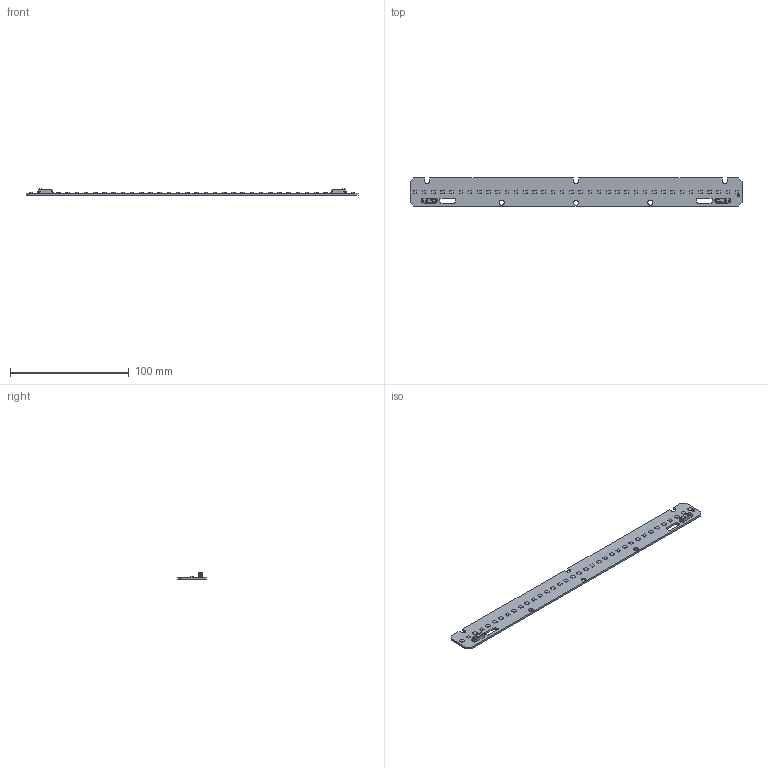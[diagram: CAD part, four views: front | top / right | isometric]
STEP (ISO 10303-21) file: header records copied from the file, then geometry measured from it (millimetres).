
FILE_DESCRIPTION((''),'2;1');
FILE_NAME('16208804_LLE-G5-24X280-2000LM','2020-03-03T09:05:52',('bernhard.fink'),(''),'CREO PARAMETRIC BY PTC INC, 2019164','CREO PARAMETRIC BY PTC INC, 2019164','');
FILE_SCHEMA(('CONFIG_CONTROL_DESIGN'));
Products named in the file (1): 16208804_LLE-G5-24X280-2000LM
Bounding box: 279 x 23.6 x 5.1 mm (x, y, z)
Volume: 10656.5 mm3; surface area: 14548.2 mm2
Topology: 1 solids, 7 shells, 851 faces, 2318 edges, 1512 vertices
Faces by surface type: plane 422, cylinder 259, bspline 98, cone 34, sphere 20, torus 18
Entity records: 57317 total; most frequent: CARTESIAN_POINT 37048, ORIENTED_EDGE 4440, DIRECTION 3678, EDGE_CURVE 2314, VERTEX_POINT 1510, VECTOR 1338, LINE 1338, AXIS2_PLACEMENT_3D 1170
